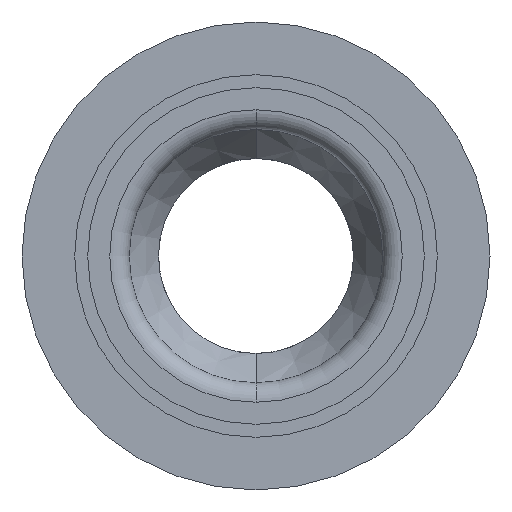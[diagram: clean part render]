
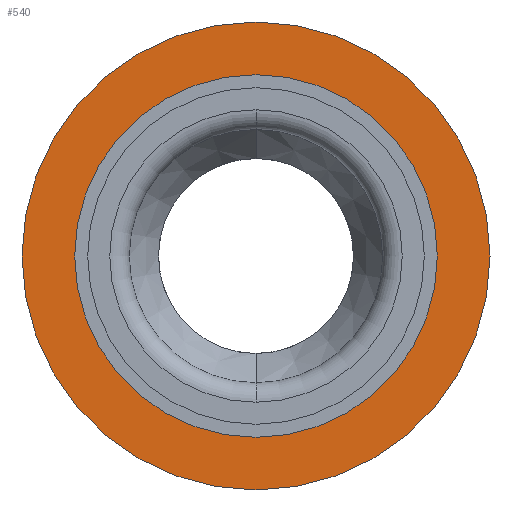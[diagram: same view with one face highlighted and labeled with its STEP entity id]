
A CAD part, front view. The second image highlights one B-rep face of the part: STEP entity #540.
In plain terms, the highlighted planar face has unit normal (0, -1, 0).
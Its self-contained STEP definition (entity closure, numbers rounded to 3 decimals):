
#138 = FACE_BOUND ( 'NONE', #223, .T. ) ;
#185 = CARTESIAN_POINT ( 'NONE',  ( -423.93, -8722.704, 8.6 ) ) ;
#223 = EDGE_LOOP ( 'NONE', ( #5297, #5285 ) ) ;
#253 = DIRECTION ( 'NONE',  ( 0., -1., 0. ) ) ;
#540 = ADVANCED_FACE ( 'NONE', ( #138, #4673 ), #2621, .T. ) ;
#744 = CIRCLE ( 'NONE', #837, 8.6 ) ;
#788 = EDGE_CURVE ( 'NONE', #2735, #2251, #6192, .T. ) ;
#837 = AXIS2_PLACEMENT_3D ( 'NONE', #5569, #1162, #6092 ) ;
#1076 = AXIS2_PLACEMENT_3D ( 'NONE', #2746, #3201, #5174 ) ;
#1093 = VERTEX_POINT ( 'NONE', #5135 ) ;
#1131 = ORIENTED_EDGE ( 'NONE', *, *, #788, .T. ) ;
#1159 = AXIS2_PLACEMENT_3D ( 'NONE', #4114, #3564, #2562 ) ;
#1162 = DIRECTION ( 'NONE',  ( 0., -1., 0. ) ) ;
#1174 = EDGE_CURVE ( 'NONE', #2251, #2735, #5201, .T. ) ;
#1376 = EDGE_LOOP ( 'NONE', ( #3392, #1131 ) ) ;
#1472 = CARTESIAN_POINT ( 'NONE',  ( -423.93, -8722.704, 0. ) ) ;
#2251 = VERTEX_POINT ( 'NONE', #2510 ) ;
#2510 = CARTESIAN_POINT ( 'NONE',  ( -423.93, -8722.704, -12. ) ) ;
#2562 = DIRECTION ( 'NONE',  ( 0., 0., -1. ) ) ;
#2621 = PLANE ( 'NONE',  #1159 ) ;
#2702 = VERTEX_POINT ( 'NONE', #185 ) ;
#2735 = VERTEX_POINT ( 'NONE', #3138 ) ;
#2746 = CARTESIAN_POINT ( 'NONE',  ( -423.93, -8722.704, 0. ) ) ;
#3138 = CARTESIAN_POINT ( 'NONE',  ( -423.93, -8722.704, 12. ) ) ;
#3201 = DIRECTION ( 'NONE',  ( 0., -1., 0. ) ) ;
#3274 = CIRCLE ( 'NONE', #5147, 8.6 ) ;
#3392 = ORIENTED_EDGE ( 'NONE', *, *, #1174, .T. ) ;
#3395 = EDGE_CURVE ( 'NONE', #2702, #1093, #3274, .T. ) ;
#3562 = DIRECTION ( 'NONE',  ( 0., 0., -1. ) ) ;
#3564 = DIRECTION ( 'NONE',  ( 0., -1., 0. ) ) ;
#4114 = CARTESIAN_POINT ( 'NONE',  ( 0., -8722.704, 0. ) ) ;
#4673 = FACE_OUTER_BOUND ( 'NONE', #1376, .T. ) ;
#4763 = DIRECTION ( 'NONE',  ( 0., 0., -1. ) ) ;
#5135 = CARTESIAN_POINT ( 'NONE',  ( -423.93, -8722.704, -8.6 ) ) ;
#5147 = AXIS2_PLACEMENT_3D ( 'NONE', #5712, #253, #4763 ) ;
#5174 = DIRECTION ( 'NONE',  ( 0., 0., -1. ) ) ;
#5201 = CIRCLE ( 'NONE', #1076, 12. ) ;
#5285 = ORIENTED_EDGE ( 'NONE', *, *, #3395, .F. ) ;
#5297 = ORIENTED_EDGE ( 'NONE', *, *, #5748, .F. ) ;
#5569 = CARTESIAN_POINT ( 'NONE',  ( -423.93, -8722.704, 0. ) ) ;
#5712 = CARTESIAN_POINT ( 'NONE',  ( -423.93, -8722.704, 0. ) ) ;
#5748 = EDGE_CURVE ( 'NONE', #1093, #2702, #744, .T. ) ;
#6092 = DIRECTION ( 'NONE',  ( 0., 0., -1. ) ) ;
#6133 = AXIS2_PLACEMENT_3D ( 'NONE', #1472, #6276, #3562 ) ;
#6192 = CIRCLE ( 'NONE', #6133, 12. ) ;
#6276 = DIRECTION ( 'NONE',  ( 0., -1., 0. ) ) ;
